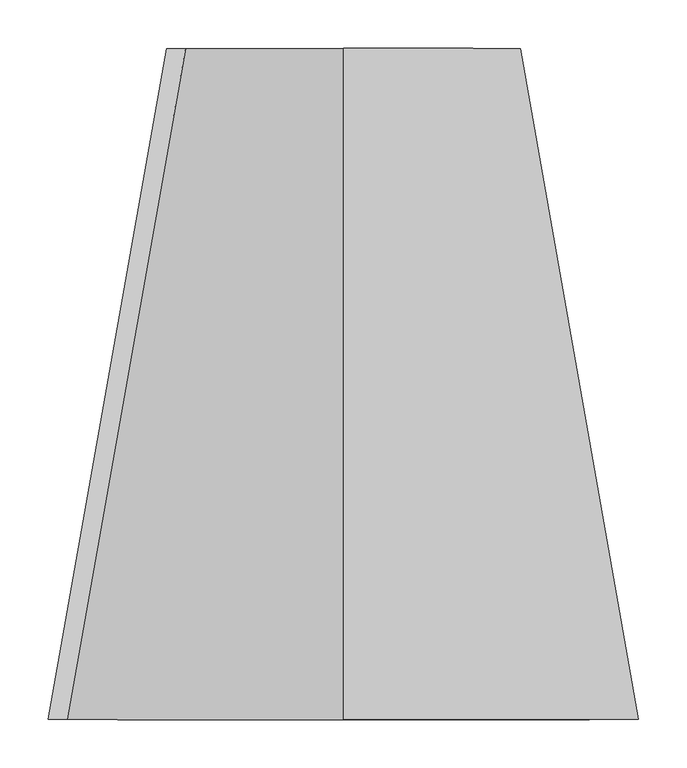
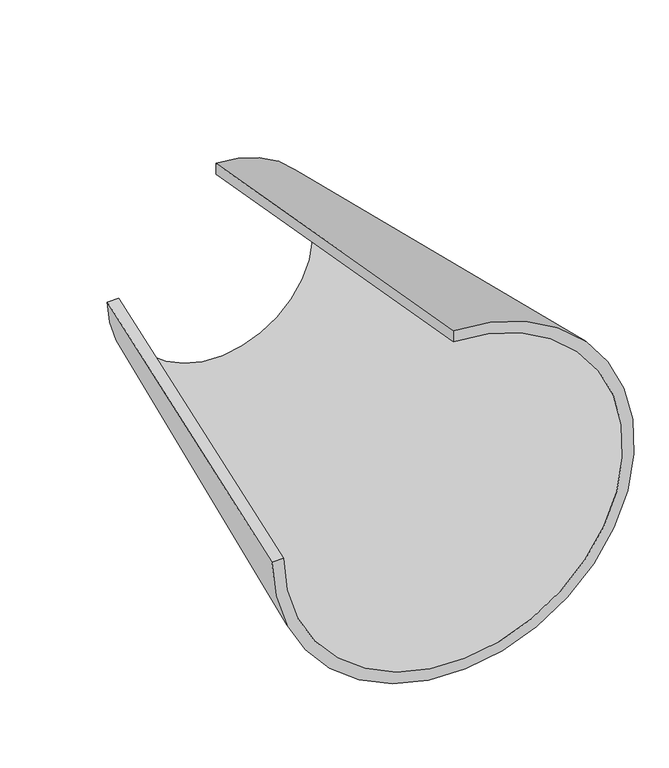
"""IFC4 building model written with IfcOpenShell, lengths in millimetres: proxy geometry, GRADIENT^TABLE 2_RADIUS BASE-BASE SIDE."""

from ifc_helpers import new_model, si_unit, frame, origin, place, context, project, spatial, polyline, circle_curve, source, transform, mapped, element, save
from ifc_brep_helpers import plane_surface, revolved_surface, advanced_brep


def generic_models_aa6a664b(model_context):
    return source(origin(), model_context, "Body", "AdvancedBrep", [
        advanced_brep(
        [(0.0, 0.0, 285.456123), (0.0, 692.15, 163.4114033), (-163.4114033, 692.15, 0.0), (-285.456123, 0.0, 0.0), (0.0, 0.0, 304.8), (-304.8, 0.0, 0.0), (0.0, 692.15, 182.7552803), (-182.7552803, 692.15, 0.0)],
        [
            (0, 1),
            (1, 2, circle_curve(frame((0.0, 692.15, 0.0), z_axis=(0.0, 1.0, 0.0), x_axis=(0.0, 0.0, 1.0)), 163.4114033)),
            (2, 3),
            (3, 0, circle_curve(frame((0.0, 0.0, 0.0), z_axis=(0.0, -1.0, 0.0), x_axis=(0.0, 0.0, 1.0)), 285.456123)),
            (4, 0),
            (3, 5),
            (5, 4, circle_curve(frame((0.0, 0.0, 0.0), z_axis=(0.0, -1.0, 0.0), x_axis=(0.0, 0.0, 1.0)), 304.8)),
            (6, 4),
            (5, 7),
            (7, 6, circle_curve(frame((0.0, 692.15, 0.0), z_axis=(0.0, -1.0, 0.0), x_axis=(0.0, 0.0, 1.0)), 182.7552803)),
            (1, 6),
            (7, 2),
        ],
        [
            revolved_surface(polyline([(0.0, 0.0, 285.456123), (0.0, 692.15, 163.4114033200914)]), (0.0, 1618.9021209, 0.0), (0.0, -1.0, 0.0)),
            plane_surface(frame((0.0, 0.0, 304.8), z_axis=(0.0, -1.0, 0.0), x_axis=(0.0, 0.0, -1.0))),
            revolved_surface(polyline([(0.0, 692.1500000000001, 182.75528030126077), (0.0, 0.0, 304.8)]), (0.0, 1728.6066986, 0.0), (0.0, -1.0, 0.0)),
            plane_surface(frame((0.0, 692.15, 163.4114033), z_axis=(0.0, 1.0, 0.0), x_axis=(0.0, 0.0, 1.0))),
            plane_surface(frame((-234.1057017, 346.075, 0.0), z_axis=(0.0, 0.0, 1.0), x_axis=(1.0, 0.0, 0.0))),
            plane_surface(frame((0.0, 346.075, 234.1057017), z_axis=(-1.0, 0.0, 0.0), x_axis=(0.0, 0.0, -1.0))),
        ],
        [
            (0, [[1, 2, 3, 4]]),
            (1, [[5, -4, 6, 7]]),
            (2, [[8, -7, 9, 10]]),
            (3, [[11, -10, 12, -2]]),
            (4, [[-12, -9, -6, -3]]),
            (5, [[-11, -1, -5, -8]]),
        ],
    ),
    ])


if __name__ == "__main__":
    model = new_model("IFC4")
    model_context = context("Model", 3, world=origin())
    ifc_project = project(units=[si_unit("LENGTHUNIT", "METRE", prefix="MILLI")], contexts=[model_context])
    site = spatial("IfcSite", under=ifc_project)
    building = spatial("IfcBuilding", under=site)
    placement = place(None, origin())
    generic_models_shape = generic_models_aa6a664b(model_context)
    element("IfcBuildingElementProxy", 1, Name="GRADIENT^TABLE 2_RADIUS BASE-BASE SIDE", ObjectType="GRADIENT^TABLE 2_RADIUS BASE-BASE SIDE", at=placement, inside=building, context=model_context, shape_type="MappedRepresentation", body=[
        mapped(generic_models_shape, transform((0.0, 0.0, 0.0), x_axis=(1.0, 0.0, 0.0), y_axis=(0.0, 1.0, 0.0), z_axis=(0.0, 0.0, 1.0))),
    ])
    save(model, "model.ifc")
